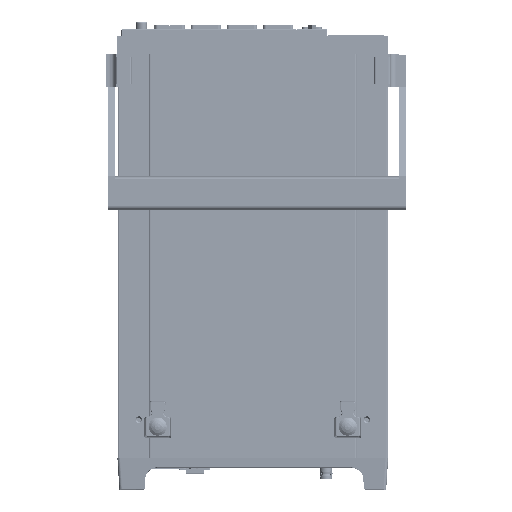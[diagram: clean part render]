
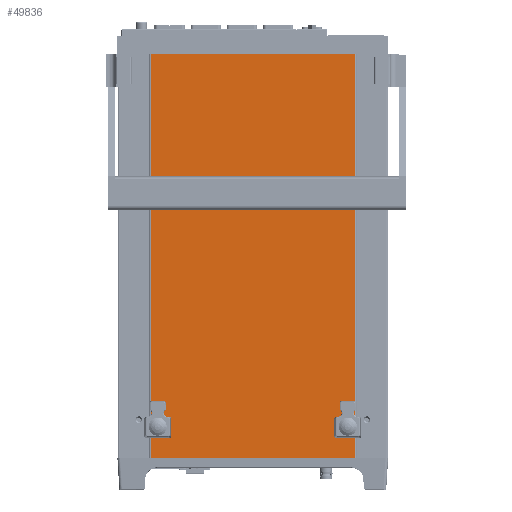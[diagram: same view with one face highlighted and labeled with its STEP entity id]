
A CAD part, front view. The second image highlights one B-rep face of the part: STEP entity #49836.
In plain terms, the highlighted planar face has unit normal (0, -1, 0).
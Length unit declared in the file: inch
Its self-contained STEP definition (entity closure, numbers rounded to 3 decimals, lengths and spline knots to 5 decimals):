
#17394=CARTESIAN_POINT('',(-2.955,0.,4.685));
#17395=DIRECTION('',(0.,1.,0.));
#17396=DIRECTION('',(1.,0.,0.));
#17397=AXIS2_PLACEMENT_3D('',#17394,#17395,#17396);
#17399=CARTESIAN_POINT('',(-2.955,0.,4.685));
#17400=DIRECTION('',(0.,1.,0.));
#17401=DIRECTION('',(-1.,0.,0.));
#17402=AXIS2_PLACEMENT_3D('',#17399,#17400,#17401);
#17404=CARTESIAN_POINT('',(-2.955,0.,5.335));
#17405=DIRECTION('',(0.,1.,0.));
#17406=DIRECTION('',(1.,0.,0.));
#17407=AXIS2_PLACEMENT_3D('',#17404,#17405,#17406);
#17409=CARTESIAN_POINT('',(-2.955,0.,5.335));
#17410=DIRECTION('',(0.,1.,0.));
#17411=DIRECTION('',(-1.,0.,0.));
#17412=AXIS2_PLACEMENT_3D('',#17409,#17410,#17411);
#17414=CARTESIAN_POINT('',(2.955,0.,4.685));
#17415=DIRECTION('',(0.,1.,0.));
#17416=DIRECTION('',(1.,0.,0.));
#17417=AXIS2_PLACEMENT_3D('',#17414,#17415,#17416);
#17419=CARTESIAN_POINT('',(2.955,0.,4.685));
#17420=DIRECTION('',(0.,1.,0.));
#17421=DIRECTION('',(-1.,0.,0.));
#17422=AXIS2_PLACEMENT_3D('',#17419,#17420,#17421);
#17424=CARTESIAN_POINT('',(2.955,0.,5.335));
#17425=DIRECTION('',(0.,1.,0.));
#17426=DIRECTION('',(1.,0.,0.));
#17427=AXIS2_PLACEMENT_3D('',#17424,#17425,#17426);
#17429=CARTESIAN_POINT('',(2.955,0.,5.335));
#17430=DIRECTION('',(0.,1.,0.));
#17431=DIRECTION('',(-1.,0.,0.));
#17432=AXIS2_PLACEMENT_3D('',#17429,#17430,#17431);
#17434=DIRECTION('',(-1.,0.,0.));
#17435=VECTOR('',#17434,6.346);
#17436=CARTESIAN_POINT('',(3.173,0.,6.305));
#17437=LINE('',#17436,#17435);
#17438=DIRECTION('',(0.,0.,-1.));
#17439=VECTOR('',#17438,12.55);
#17440=CARTESIAN_POINT('',(3.173,0.,6.305));
#17441=LINE('',#17440,#17439);
#17442=DIRECTION('',(-1.,0.,0.));
#17443=VECTOR('',#17442,6.346);
#17444=CARTESIAN_POINT('',(3.173,0.,-6.245));
#17445=LINE('',#17444,#17443);
#17514=DIRECTION('',(0.,0.,-1.));
#17515=VECTOR('',#17514,12.55);
#17516=CARTESIAN_POINT('',(-3.173,0.,6.305));
#17517=LINE('',#17516,#17515);
#18545=CARTESIAN_POINT('',(3.173,0.,-6.245));
#18546=CARTESIAN_POINT('',(-3.173,0.,-6.245));
#18547=VERTEX_POINT('',#18545);
#18548=VERTEX_POINT('',#18546);
#18585=CARTESIAN_POINT('',(-2.8585,0.,4.685));
#18586=CARTESIAN_POINT('',(-3.0515,0.,4.685));
#18587=VERTEX_POINT('',#18585);
#18588=VERTEX_POINT('',#18586);
#18589=CARTESIAN_POINT('',(-2.8485,0.,5.335));
#18590=CARTESIAN_POINT('',(-3.0615,0.,5.335));
#18591=VERTEX_POINT('',#18589);
#18592=VERTEX_POINT('',#18590);
#18593=CARTESIAN_POINT('',(3.0515,0.,4.685));
#18594=CARTESIAN_POINT('',(2.8585,0.,4.685));
#18595=VERTEX_POINT('',#18593);
#18596=VERTEX_POINT('',#18594);
#18597=CARTESIAN_POINT('',(3.0615,0.,5.335));
#18598=CARTESIAN_POINT('',(2.8485,0.,5.335));
#18599=VERTEX_POINT('',#18597);
#18600=VERTEX_POINT('',#18598);
#18649=CARTESIAN_POINT('',(3.173,0.,6.305));
#18650=VERTEX_POINT('',#18649);
#18651=CARTESIAN_POINT('',(-3.173,0.,6.305));
#18652=VERTEX_POINT('',#18651);
#49799=CARTESIAN_POINT('',(3.173,0.,6.325));
#49800=DIRECTION('',(0.,-1.,0.));
#49801=DIRECTION('',(-1.,0.,0.));
#49802=AXIS2_PLACEMENT_3D('',#49799,#49800,#49801);
#49803=PLANE('',#49802);
#49805=ORIENTED_EDGE('',*,*,#49804,.F.);
#49807=ORIENTED_EDGE('',*,*,#49806,.T.);
#49809=ORIENTED_EDGE('',*,*,#49808,.T.);
#49811=ORIENTED_EDGE('',*,*,#49810,.F.);
#49812=EDGE_LOOP('',(#49805,#49807,#49809,#49811));
#49813=FACE_OUTER_BOUND('',#49812,.F.);
#49815=ORIENTED_EDGE('',*,*,#49814,.F.);
#49817=ORIENTED_EDGE('',*,*,#49816,.F.);
#49818=EDGE_LOOP('',(#49815,#49817));
#49819=FACE_BOUND('',#49818,.F.);
#49821=ORIENTED_EDGE('',*,*,#49820,.F.);
#49823=ORIENTED_EDGE('',*,*,#49822,.F.);
#49824=EDGE_LOOP('',(#49821,#49823));
#49825=FACE_BOUND('',#49824,.F.);
#49827=ORIENTED_EDGE('',*,*,#49826,.F.);
#49829=ORIENTED_EDGE('',*,*,#49828,.F.);
#49830=EDGE_LOOP('',(#49827,#49829));
#49831=FACE_BOUND('',#49830,.F.);
#49832=ORIENTED_EDGE('',*,*,#49779,.F.);
#49833=ORIENTED_EDGE('',*,*,#49793,.F.);
#49834=EDGE_LOOP('',(#49832,#49833));
#49835=FACE_BOUND('',#49834,.F.);
#49836=ADVANCED_FACE('',(#49813,#49819,#49825,#49831,#49835),#49803,.T.);
#17398=CIRCLE('',#17397,0.0965);
#17403=CIRCLE('',#17402,0.0965);
#17408=CIRCLE('',#17407,0.1065);
#17413=CIRCLE('',#17412,0.1065);
#17418=CIRCLE('',#17417,0.0965);
#17423=CIRCLE('',#17422,0.0965);
#17428=CIRCLE('',#17427,0.1065);
#17433=CIRCLE('',#17432,0.1065);
#49779=EDGE_CURVE('',#18587,#18588,#17398,.T.);
#49793=EDGE_CURVE('',#18588,#18587,#17403,.T.);
#49804=EDGE_CURVE('',#18650,#18652,#17437,.T.);
#49806=EDGE_CURVE('',#18650,#18547,#17441,.T.);
#49808=EDGE_CURVE('',#18547,#18548,#17445,.T.);
#49810=EDGE_CURVE('',#18652,#18548,#17517,.T.);
#49814=EDGE_CURVE('',#18591,#18592,#17408,.T.);
#49816=EDGE_CURVE('',#18592,#18591,#17413,.T.);
#49820=EDGE_CURVE('',#18595,#18596,#17418,.T.);
#49822=EDGE_CURVE('',#18596,#18595,#17423,.T.);
#49826=EDGE_CURVE('',#18599,#18600,#17428,.T.);
#49828=EDGE_CURVE('',#18600,#18599,#17433,.T.);
